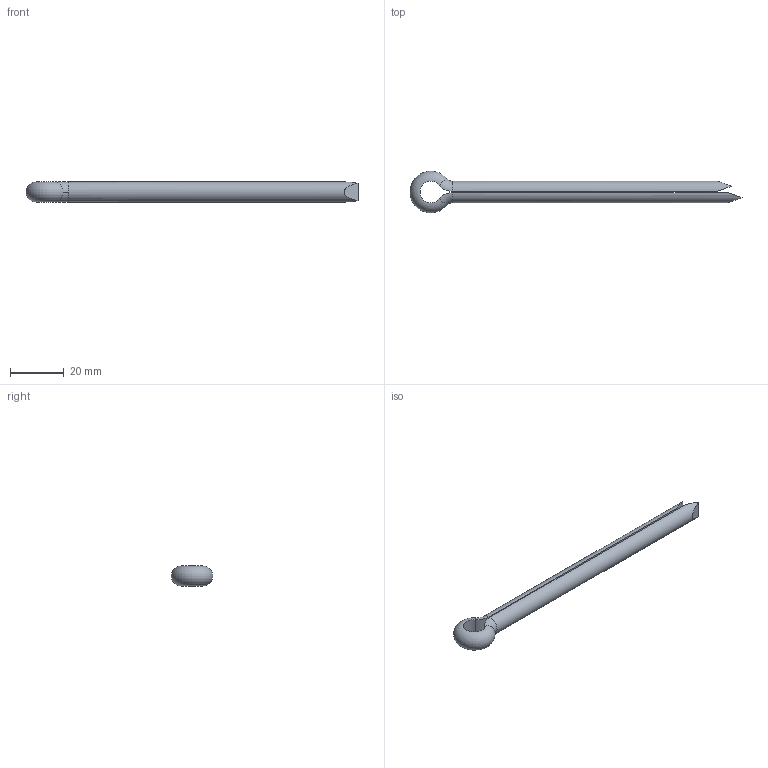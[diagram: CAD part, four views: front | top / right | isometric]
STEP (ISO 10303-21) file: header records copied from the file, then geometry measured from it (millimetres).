
FILE_DESCRIPTION (( 'STEP AP203' ), '1' );
FILE_NAME ('65674.0080.step', '2014-01-07T16:36:37', ( 'User' ), ( '' ), 'SwSTEP 2.0', 'SolidWorks 2009', '' );
FILE_SCHEMA (( 'CONFIG_CONTROL_DESIGN' ));
Length unit declared in the file: millimetre
Products named in the file (1): 65674.0080
Bounding box: 123.75 x 15.5 x 7.5 mm (x, y, z)
Volume: 5366.7 mm3; surface area: 4749.3 mm2
Topology: 1 solids, 1 shells, 16 faces, 34 edges, 20 vertices
Faces by surface type: plane 6, torus 5, cylinder 5
Entity records: 507 total; most frequent: CARTESIAN_POINT 89, DIRECTION 78, ORIENTED_EDGE 68, EDGE_CURVE 34, AXIS2_PLACEMENT_3D 33, VERTEX_POINT 20, EDGE_LOOP 16, ADVANCED_FACE 16
